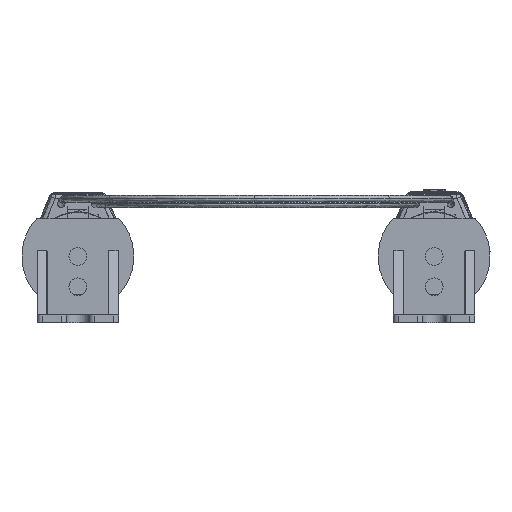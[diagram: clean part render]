
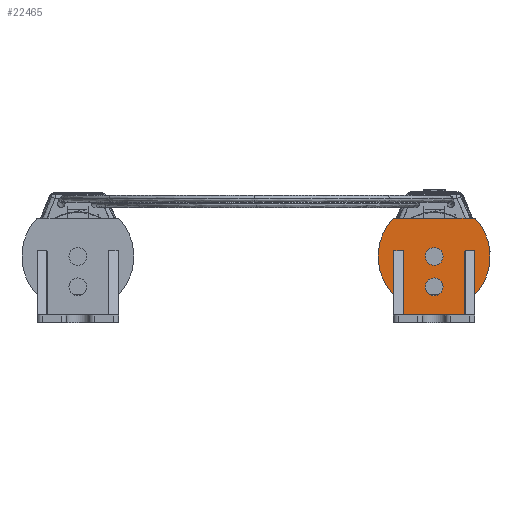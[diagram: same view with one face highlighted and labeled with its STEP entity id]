
A CAD part, left-side view. The second image highlights one B-rep face of the part: STEP entity #22465.
In plain terms, the highlighted free-form (B-spline) face has degree [3, 3] with [4, 4] control points.
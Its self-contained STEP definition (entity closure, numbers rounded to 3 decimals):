
#1530=CARTESIAN_POINT('',(5.5,-8.,13.944));
#1531=CARTESIAN_POINT('',(5.5,-8.,13.962));
#1532=CARTESIAN_POINT('',(5.5,-7.998,13.996));
#1533=CARTESIAN_POINT('',(5.5,-7.988,14.041));
#1534=CARTESIAN_POINT('',(5.5,-7.974,14.081));
#1535=CARTESIAN_POINT('',(5.5,-7.955,14.113));
#1536=CARTESIAN_POINT('',(5.5,-7.931,14.137));
#1537=CARTESIAN_POINT('',(5.5,-7.911,14.144));
#1538=CARTESIAN_POINT('',(5.5,-7.9,14.144));
#1540=DIRECTION('',(0.,1.,0.));
#1541=VECTOR('',#1540,12.);
#1542=CARTESIAN_POINT('',(5.5,-6.,1.5));
#1543=LINE('',#1542,#1541);
#1544=DIRECTION('',(0.,0.,-1.));
#1545=VECTOR('',#1544,8.494);
#1546=CARTESIAN_POINT('',(5.5,8.,13.944));
#1547=LINE('',#1546,#1545);
#1548=CARTESIAN_POINT('',(5.5,0.,13.));
#1549=DIRECTION('',(1.,0.,0.));
#1550=DIRECTION('',(0.,0.727,-0.686));
#1551=AXIS2_PLACEMENT_3D('',#1548,#1549,#1550);
#1553=DIRECTION('',(0.,-1.,0.));
#1554=VECTOR('',#1553,16.093);
#1555=CARTESIAN_POINT('',(5.5,8.047,20.5));
#1556=LINE('',#1555,#1554);
#1557=CARTESIAN_POINT('',(5.5,0.,13.));
#1558=DIRECTION('',(1.,0.,0.));
#1559=DIRECTION('',(0.,-0.732,0.682));
#1560=AXIS2_PLACEMENT_3D('',#1557,#1558,#1559);
#1562=DIRECTION('',(0.,0.,1.));
#1563=VECTOR('',#1562,8.494);
#1564=CARTESIAN_POINT('',(5.5,-8.,5.45));
#1565=LINE('',#1564,#1563);
#1566=CARTESIAN_POINT('',(5.5,0.,7.03));
#1567=DIRECTION('',(-1.,0.,0.));
#1568=DIRECTION('',(0.,0.,1.));
#1569=AXIS2_PLACEMENT_3D('',#1566,#1567,#1568);
#1571=CARTESIAN_POINT('',(5.5,0.,7.03));
#1572=DIRECTION('',(-1.,0.,0.));
#1573=DIRECTION('',(0.,0.,-1.));
#1574=AXIS2_PLACEMENT_3D('',#1571,#1572,#1573);
#1576=CARTESIAN_POINT('',(5.5,0.,13.));
#1577=DIRECTION('',(-1.,0.,0.));
#1578=DIRECTION('',(0.,0.,1.));
#1579=AXIS2_PLACEMENT_3D('',#1576,#1577,#1578);
#1581=CARTESIAN_POINT('',(5.5,0.,13.));
#1582=DIRECTION('',(-1.,0.,0.));
#1583=DIRECTION('',(0.,0.,-1.));
#1584=AXIS2_PLACEMENT_3D('',#1581,#1582,#1583);
#1780=CARTESIAN_POINT('',(5.5,8.,13.944));
#1781=CARTESIAN_POINT('',(5.5,8.,13.962));
#1782=CARTESIAN_POINT('',(5.5,7.998,13.995));
#1783=CARTESIAN_POINT('',(5.5,7.989,14.04));
#1784=CARTESIAN_POINT('',(5.5,7.975,14.08));
#1785=CARTESIAN_POINT('',(5.5,7.956,14.113));
#1786=CARTESIAN_POINT('',(5.5,7.93,14.138));
#1787=CARTESIAN_POINT('',(5.5,7.91,14.144));
#1788=CARTESIAN_POINT('',(5.5,7.9,14.144));
#1802=DIRECTION('',(0.,-1.,0.));
#1803=VECTOR('',#1802,1.8);
#1804=CARTESIAN_POINT('',(5.5,7.9,14.144));
#1805=LINE('',#1804,#1803);
#1806=CARTESIAN_POINT('',(5.5,6.1,14.144));
#1807=CARTESIAN_POINT('',(5.5,6.09,14.144));
#1808=CARTESIAN_POINT('',(5.5,6.07,14.138));
#1809=CARTESIAN_POINT('',(5.5,6.044,14.113));
#1810=CARTESIAN_POINT('',(5.5,6.025,14.08));
#1811=CARTESIAN_POINT('',(5.5,6.011,14.04));
#1812=CARTESIAN_POINT('',(5.5,6.002,13.995));
#1813=CARTESIAN_POINT('',(5.5,6.,13.962));
#1814=CARTESIAN_POINT('',(5.5,6.,13.944));
#1820=DIRECTION('',(0.,0.,-1.));
#1821=VECTOR('',#1820,12.444);
#1822=CARTESIAN_POINT('',(5.5,6.,13.944));
#1823=LINE('',#1822,#1821);
#1844=DIRECTION('',(0.,0.,1.));
#1845=VECTOR('',#1844,12.444);
#1846=CARTESIAN_POINT('',(5.5,-6.,1.5));
#1847=LINE('',#1846,#1845);
#1848=CARTESIAN_POINT('',(5.5,-6.,13.944));
#1849=CARTESIAN_POINT('',(5.5,-6.,13.962));
#1850=CARTESIAN_POINT('',(5.5,-6.002,13.995));
#1851=CARTESIAN_POINT('',(5.5,-6.011,14.04));
#1852=CARTESIAN_POINT('',(5.5,-6.025,14.08));
#1853=CARTESIAN_POINT('',(5.5,-6.044,14.113));
#1854=CARTESIAN_POINT('',(5.5,-6.07,14.138));
#1855=CARTESIAN_POINT('',(5.5,-6.09,14.144));
#1856=CARTESIAN_POINT('',(5.5,-6.1,14.144));
#1866=DIRECTION('',(0.,1.,0.));
#1867=VECTOR('',#1866,1.8);
#1868=CARTESIAN_POINT('',(5.5,-7.9,14.144));
#1869=LINE('',#1868,#1867);
#16754=CARTESIAN_POINT('',(5.5,0.,5.28));
#16755=CARTESIAN_POINT('',(5.5,0.,8.78));
#16756=VERTEX_POINT('',#16754);
#16757=VERTEX_POINT('',#16755);
#16834=CARTESIAN_POINT('',(5.5,8.047,20.5));
#16835=VERTEX_POINT('',#16834);
#16836=CARTESIAN_POINT('',(5.5,-8.047,20.5));
#16837=VERTEX_POINT('',#16836);
#16838=CARTESIAN_POINT('',(5.5,-8.,5.45));
#16839=VERTEX_POINT('',#16838);
#16841=CARTESIAN_POINT('',(5.5,-8.,13.944));
#16843=VERTEX_POINT('',#16841);
#16849=CARTESIAN_POINT('',(5.5,-7.9,14.144));
#16850=VERTEX_POINT('',#16849);
#16854=CARTESIAN_POINT('',(5.5,-6.,1.5));
#16855=VERTEX_POINT('',#16854);
#16856=CARTESIAN_POINT('',(5.5,6.,1.5));
#16857=VERTEX_POINT('',#16856);
#16900=CARTESIAN_POINT('',(5.5,8.,13.944));
#16901=VERTEX_POINT('',#16900);
#16902=CARTESIAN_POINT('',(5.5,8.,5.45));
#16903=VERTEX_POINT('',#16902);
#16904=VERTEX_POINT('',#1788);
#16905=CARTESIAN_POINT('',(5.5,6.1,14.144));
#16906=VERTEX_POINT('',#16905);
#16907=VERTEX_POINT('',#1814);
#16908=CARTESIAN_POINT('',(5.5,-6.,13.944));
#16909=VERTEX_POINT('',#16908);
#16910=VERTEX_POINT('',#1856);
#16911=CARTESIAN_POINT('',(5.5,0.,14.75));
#16912=CARTESIAN_POINT('',(5.5,0.,11.25));
#16913=VERTEX_POINT('',#16911);
#16914=VERTEX_POINT('',#16912);
#22409=CARTESIAN_POINT('',(5.5,-11.458,20.9));
#22410=CARTESIAN_POINT('',(5.5,-3.82,20.9));
#22411=CARTESIAN_POINT('',(5.5,3.818,20.9));
#22412=CARTESIAN_POINT('',(5.5,11.456,20.9));
#22413=CARTESIAN_POINT('',(5.5,-11.458,14.3));
#22414=CARTESIAN_POINT('',(5.5,-3.82,14.3));
#22415=CARTESIAN_POINT('',(5.5,3.818,14.3));
#22416=CARTESIAN_POINT('',(5.5,11.456,14.3));
#22417=CARTESIAN_POINT('',(5.5,-11.458,7.7));
#22418=CARTESIAN_POINT('',(5.5,-3.82,7.7));
#22419=CARTESIAN_POINT('',(5.5,3.818,7.7));
#22420=CARTESIAN_POINT('',(5.5,11.456,7.7));
#22421=CARTESIAN_POINT('',(5.5,-11.458,1.1));
#22422=CARTESIAN_POINT('',(5.5,-3.82,1.1));
#22423=CARTESIAN_POINT('',(5.5,3.818,1.1));
#22424=CARTESIAN_POINT('',(5.5,11.456,1.1));
#22425=B_SPLINE_SURFACE_WITH_KNOTS('',3,3,((#22409,#22410,#22411,#22412),
(#22413,#22414,#22415,#22416),(#22417,#22418,#22419,#22420),(#22421,#22422,
#22423,#22424)),.UNSPECIFIED.,.F.,.F.,.F.,(4,4),(4,4),(-7.9,
11.9),(-11.458,11.456),.UNSPECIFIED.);
#22427=ORIENTED_EDGE('',*,*,#22426,.T.);
#22429=ORIENTED_EDGE('',*,*,#22428,.T.);
#22431=ORIENTED_EDGE('',*,*,#22430,.F.);
#22433=ORIENTED_EDGE('',*,*,#22432,.F.);
#22435=ORIENTED_EDGE('',*,*,#22434,.T.);
#22437=ORIENTED_EDGE('',*,*,#22436,.F.);
#22439=ORIENTED_EDGE('',*,*,#22438,.F.);
#22441=ORIENTED_EDGE('',*,*,#22440,.F.);
#22443=ORIENTED_EDGE('',*,*,#22442,.F.);
#22445=ORIENTED_EDGE('',*,*,#22444,.T.);
#22447=ORIENTED_EDGE('',*,*,#22446,.T.);
#22448=ORIENTED_EDGE('',*,*,#22115,.T.);
#22450=ORIENTED_EDGE('',*,*,#22449,.T.);
#22452=ORIENTED_EDGE('',*,*,#22451,.T.);
#22453=EDGE_LOOP('',(#22427,#22429,#22431,#22433,#22435,#22437,#22439,#22441,
#22443,#22445,#22447,#22448,#22450,#22452));
#22454=FACE_OUTER_BOUND('',#22453,.F.);
#22456=ORIENTED_EDGE('',*,*,#22455,.T.);
#22458=ORIENTED_EDGE('',*,*,#22457,.T.);
#22459=EDGE_LOOP('',(#22456,#22458));
#22460=FACE_BOUND('',#22459,.F.);
#22461=ORIENTED_EDGE('',*,*,#22372,.T.);
#22462=ORIENTED_EDGE('',*,*,#22396,.T.);
#22463=EDGE_LOOP('',(#22461,#22462));
#22464=FACE_BOUND('',#22463,.F.);
#1539=B_SPLINE_CURVE_WITH_KNOTS('',3,(#1530,#1531,#1532,#1533,#1534,#1535,#1536,
#1537,#1538),.UNSPECIFIED.,.F.,.F.,(4,1,1,1,1,1,4),(0.,0.167,
0.333,0.5,0.667,0.833,1.),
.UNSPECIFIED.);
#1552=CIRCLE('',#1551,11.);
#1561=CIRCLE('',#1560,11.);
#1570=CIRCLE('',#1569,1.75);
#1575=CIRCLE('',#1574,1.75);
#1580=CIRCLE('',#1579,1.75);
#1585=CIRCLE('',#1584,1.75);
#1789=B_SPLINE_CURVE_WITH_KNOTS('',3,(#1780,#1781,#1782,#1783,#1784,#1785,#1786,
#1787,#1788),.UNSPECIFIED.,.F.,.F.,(4,1,1,1,1,1,4),(0.,0.167,
0.333,0.5,0.667,0.833,1.),
.UNSPECIFIED.);
#1815=B_SPLINE_CURVE_WITH_KNOTS('',3,(#1806,#1807,#1808,#1809,#1810,#1811,#1812,
#1813,#1814),.UNSPECIFIED.,.F.,.F.,(4,1,1,1,1,1,4),(0.,0.167,
0.333,0.5,0.667,0.833,1.),
.UNSPECIFIED.);
#1857=B_SPLINE_CURVE_WITH_KNOTS('',3,(#1848,#1849,#1850,#1851,#1852,#1853,#1854,
#1855,#1856),.UNSPECIFIED.,.F.,.F.,(4,1,1,1,1,1,4),(0.,0.167,
0.333,0.5,0.667,0.833,1.),
.UNSPECIFIED.);
#22115=EDGE_CURVE('',#16835,#16837,#1556,.T.);
#22372=EDGE_CURVE('',#16913,#16914,#1580,.T.);
#22396=EDGE_CURVE('',#16914,#16913,#1585,.T.);
#22426=EDGE_CURVE('',#16843,#16850,#1539,.T.);
#22428=EDGE_CURVE('',#16850,#16910,#1869,.T.);
#22430=EDGE_CURVE('',#16909,#16910,#1857,.T.);
#22432=EDGE_CURVE('',#16855,#16909,#1847,.T.);
#22434=EDGE_CURVE('',#16855,#16857,#1543,.T.);
#22436=EDGE_CURVE('',#16907,#16857,#1823,.T.);
#22438=EDGE_CURVE('',#16906,#16907,#1815,.T.);
#22440=EDGE_CURVE('',#16904,#16906,#1805,.T.);
#22442=EDGE_CURVE('',#16901,#16904,#1789,.T.);
#22444=EDGE_CURVE('',#16901,#16903,#1547,.T.);
#22446=EDGE_CURVE('',#16903,#16835,#1552,.T.);
#22449=EDGE_CURVE('',#16837,#16839,#1561,.T.);
#22451=EDGE_CURVE('',#16839,#16843,#1565,.T.);
#22455=EDGE_CURVE('',#16757,#16756,#1570,.T.);
#22457=EDGE_CURVE('',#16756,#16757,#1575,.T.);
#22465=ADVANCED_FACE('',(#22454,#22460,#22464),#22425,.F.);
